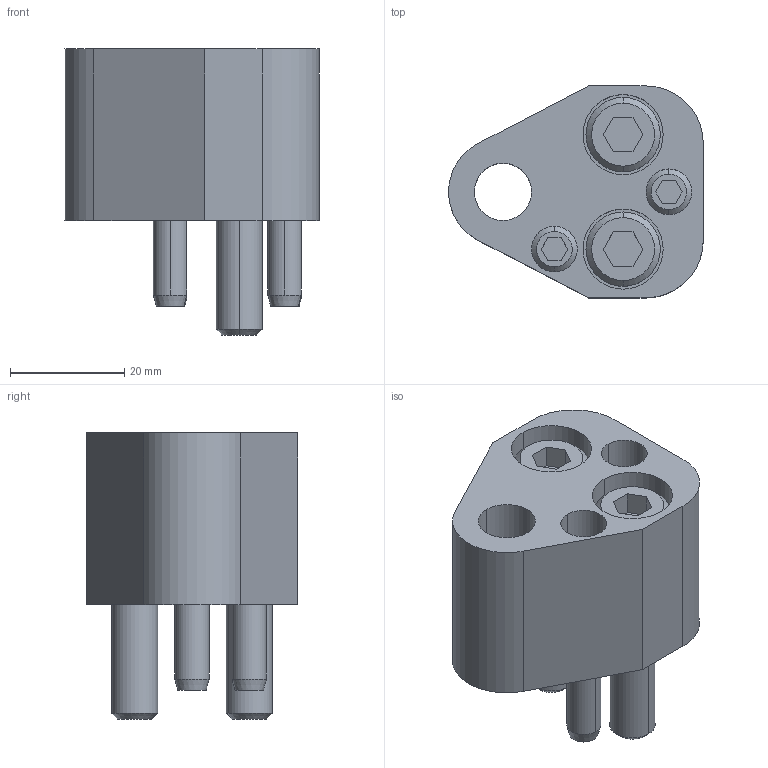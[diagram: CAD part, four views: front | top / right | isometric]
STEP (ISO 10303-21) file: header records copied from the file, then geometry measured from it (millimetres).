
FILE_DESCRIPTION(/* description */ (''),/* implementation_level */ '2;1');
FILE_NAME(/* name */ '3d_hdpar10_04038_r00.stp',/* time_stamp */ '2011-01-10T14:14:52+09:00',/* author */ ('MISUMI'),/* organization */ (''),/* preprocessor_version */ 'ST-DEVELOPER v11',/* originating_system */ 'UGS - NX 5.0',/* authorisation */ '');
FILE_SCHEMA (('CONFIG_CONTROL_DESIGN'));
Length unit declared in the file: millimetre
Products named in the file (1): 3d_hdpar10_04038_r00
Bounding box: 44.47 x 37 x 50 mm (x, y, z)
Volume: 35572.1 mm3; surface area: 15752.5 mm2
Topology: 7 solids, 7 shells, 135 faces, 294 edges, 188 vertices
Faces by surface type: plane 60, cylinder 49, cone 26
Entity records: 3836 total; most frequent: DIRECTION 684, CARTESIAN_POINT 672, ORIENTED_EDGE 588, EDGE_CURVE 294, AXIS2_PLACEMENT_3D 260, VERTEX_POINT 188, LINE 164, VECTOR 164
